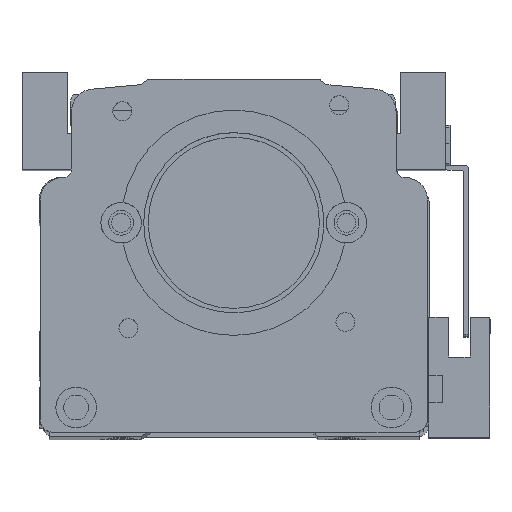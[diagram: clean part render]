
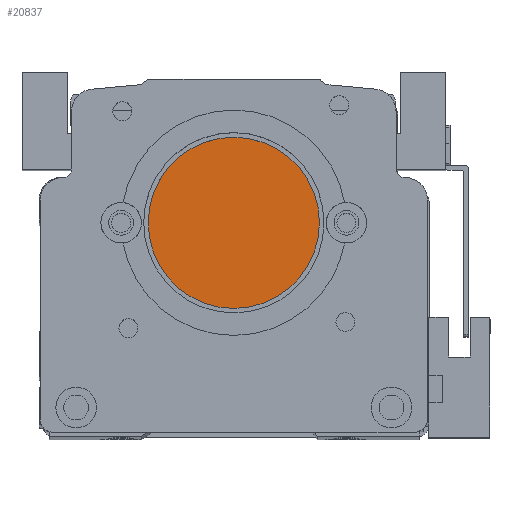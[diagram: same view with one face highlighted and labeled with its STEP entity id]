
A CAD part, top view. The second image highlights one B-rep face of the part: STEP entity #20837.
In plain terms, the highlighted planar face has unit normal (0, 0, 1) as drawn and (0, 0, -1) by its records, which use the part's own axes.
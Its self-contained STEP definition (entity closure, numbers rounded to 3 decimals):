
#142 = AXIS2_PLACEMENT_3D ( 'NONE', #8170, #19487, #9755 ) ;
#185 = PLANE ( 'NONE',  #5917 ) ;
#461 = VERTEX_POINT ( 'NONE', #13198 ) ;
#1756 = ORIENTED_EDGE ( 'NONE', *, *, #19012, .T. ) ;
#1817 = DIRECTION ( 'NONE',  ( -1., 0., 0. ) ) ;
#1830 = CARTESIAN_POINT ( 'NONE',  ( 49., 39., 5. ) ) ;
#3090 = CIRCLE ( 'NONE', #142, 19. ) ;
#5288 = ORIENTED_EDGE ( 'NONE', *, *, #17158, .T. ) ;
#5495 = FACE_OUTER_BOUND ( 'NONE', #8734, .T. ) ;
#5917 = AXIS2_PLACEMENT_3D ( 'NONE', #14609, #11343, #1817 ) ;
#6458 = CARTESIAN_POINT ( 'NONE',  ( 30., 39., 5. ) ) ;
#8062 = DIRECTION ( 'NONE',  ( -1., 0., 0. ) ) ;
#8170 = CARTESIAN_POINT ( 'NONE',  ( 30., 39., 5. ) ) ;
#8734 = EDGE_LOOP ( 'NONE', ( #1756, #5288 ) ) ;
#9755 = DIRECTION ( 'NONE',  ( -1., 0., 0. ) ) ;
#11343 = DIRECTION ( 'NONE',  ( 0., 0., -1. ) ) ;
#13198 = CARTESIAN_POINT ( 'NONE',  ( 11., 39., 5. ) ) ;
#14609 = CARTESIAN_POINT ( 'NONE',  ( 30., 39., 5. ) ) ;
#17158 = EDGE_CURVE ( 'NONE', #19708, #461, #3090, .T. ) ;
#17503 = CIRCLE ( 'NONE', #20790, 19. ) ;
#17716 = DIRECTION ( 'NONE',  ( 0., 0., -1. ) ) ;
#19012 = EDGE_CURVE ( 'NONE', #461, #19708, #17503, .T. ) ;
#19487 = DIRECTION ( 'NONE',  ( 0., 0., -1. ) ) ;
#19708 = VERTEX_POINT ( 'NONE', #1830 ) ;
#20790 = AXIS2_PLACEMENT_3D ( 'NONE', #6458, #17716, #8062 ) ;
#20837 = ADVANCED_FACE ( 'NONE', ( #5495 ), #185, .T. ) ;
